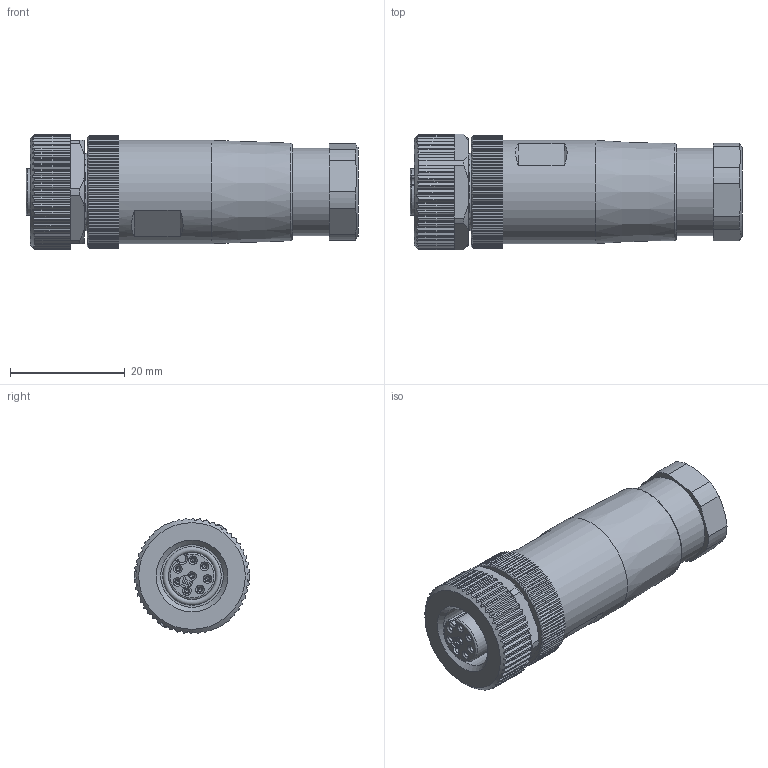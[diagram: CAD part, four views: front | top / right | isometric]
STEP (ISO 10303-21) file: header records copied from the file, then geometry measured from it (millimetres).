
FILE_DESCRIPTION(/* description */ (''),/* implementation_level */ '2;1');
FILE_NAME(/* name */ '99_0486_12_08_stp.stp',/* time_stamp */ '2021-04-20T07:04:28+02:00',/* author */ (''),/* organization */ (''),/* preprocessor_version */ 'ST-DEVELOPER v16',/* originating_system */ 'SIEMENS PLM Software NX 11.0',/* authorisation */ '');
FILE_SCHEMA (('AUTOMOTIVE_DESIGN { 1 0 10303 214 3 1 1 1 }'));
Length unit declared in the file: millimetre
Products named in the file (1): shol0940F788uj6r
Bounding box: 57.9 x 20.2 x 20.2 mm (x, y, z)
Volume: 13906.2 mm3; surface area: 4938.5 mm2
Topology: 1 solids, 1 shells, 720 faces, 2051 edges, 1341 vertices
Faces by surface type: plane 412, cylinder 258, cone 44, torus 4, sphere 2
Full cylindrical faces by diameter (mm): 0.85 x8, 0.9 x8, 8.2 x1, 10.917 x1, 13.5 x1, 15.2 x1, 18 x1
Entity records: 25495 total; most frequent: CARTESIAN_POINT 7738, ORIENTED_EDGE 3930, DIRECTION 3374, EDGE_CURVE 1965, VERTEX_POINT 1310, AXIS2_PLACEMENT_3D 1191, LINE 992, VECTOR 992
